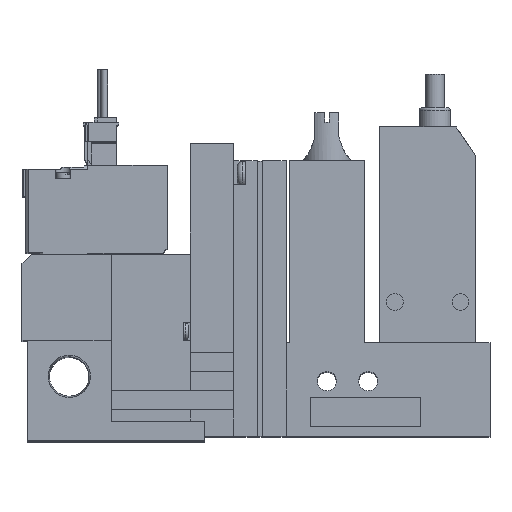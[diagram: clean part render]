
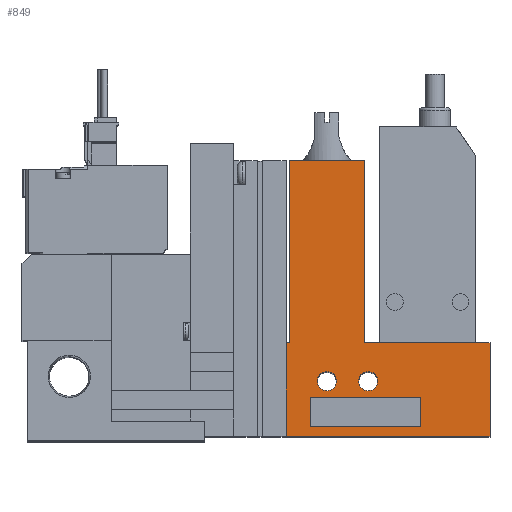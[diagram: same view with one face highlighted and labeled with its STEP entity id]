
A CAD part, top view. The second image highlights one B-rep face of the part: STEP entity #849.
In plain terms, the highlighted planar face has unit normal (0, 0, 1).
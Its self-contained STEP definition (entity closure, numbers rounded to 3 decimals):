
#849=ADVANCED_FACE('',(#1730,#1731,#1732,#1733),#1734,.T.);
#1730=FACE_BOUND('',#2973,.T.);
#1731=FACE_BOUND('',#2974,.T.);
#1732=FACE_BOUND('',#2975,.T.);
#1733=FACE_OUTER_BOUND('',#2976,.T.);
#1734=PLANE('',#2977);
#2973=EDGE_LOOP('',(#6084,#6085,#6086,#6087));
#2974=EDGE_LOOP('',(#6088));
#2975=EDGE_LOOP('',(#6089));
#2976=EDGE_LOOP('',(#6090,#6091,#6092,#6093,#6094,#6095,#6096,#6097));
#2977=AXIS2_PLACEMENT_3D('',#6098,#6099,#6100);
#6084=ORIENTED_EDGE('',*,*,#8565,.T.);
#6085=ORIENTED_EDGE('',*,*,#8566,.T.);
#6086=ORIENTED_EDGE('',*,*,#8491,.T.);
#6087=ORIENTED_EDGE('',*,*,#8477,.T.);
#6088=ORIENTED_EDGE('',*,*,#8567,.T.);
#6089=ORIENTED_EDGE('',*,*,#8568,.T.);
#6090=ORIENTED_EDGE('',*,*,#8569,.F.);
#6091=ORIENTED_EDGE('',*,*,#8570,.T.);
#6092=ORIENTED_EDGE('',*,*,#8441,.T.);
#6093=ORIENTED_EDGE('',*,*,#8515,.T.);
#6094=ORIENTED_EDGE('',*,*,#8518,.T.);
#6095=ORIENTED_EDGE('',*,*,#8571,.T.);
#6096=ORIENTED_EDGE('',*,*,#8572,.T.);
#6097=ORIENTED_EDGE('',*,*,#8573,.T.);
#6098=CARTESIAN_POINT('',(0.0,0.0,10.0));
#6099=DIRECTION('',(0.0,0.0,1.0));
#6100=DIRECTION('',(1.0,0.0,0.0));
#8441=EDGE_CURVE('',#10221,#10219,#10222,.T.);
#8477=EDGE_CURVE('',#10282,#10287,#10289,.T.);
#8491=EDGE_CURVE('',#10308,#10282,#10312,.T.);
#8515=EDGE_CURVE('',#10219,#10351,#10353,.T.);
#8518=EDGE_CURVE('',#10351,#10356,#10358,.T.);
#8565=EDGE_CURVE('',#10287,#10441,#10442,.T.);
#8566=EDGE_CURVE('',#10441,#10308,#10443,.T.);
#8567=EDGE_CURVE('',#10444,#10444,#10445,.T.);
#8568=EDGE_CURVE('',#10446,#10446,#10447,.T.);
#8569=EDGE_CURVE('',#10448,#10449,#10450,.T.);
#8570=EDGE_CURVE('',#10448,#10221,#10451,.T.);
#8571=EDGE_CURVE('',#10356,#10452,#10453,.T.);
#8572=EDGE_CURVE('',#10452,#10454,#10455,.T.);
#8573=EDGE_CURVE('',#10454,#10449,#10456,.T.);
#10219=VERTEX_POINT('',#13104);
#10221=VERTEX_POINT('',#13107);
#10222=LINE('',#13108,#13109);
#10282=VERTEX_POINT('',#13197);
#10287=VERTEX_POINT('',#13204);
#10289=LINE('',#13207,#13208);
#10308=VERTEX_POINT('',#13238);
#10312=LINE('',#13244,#13245);
#10351=VERTEX_POINT('',#13306);
#10353=LINE('',#13309,#13310);
#10356=VERTEX_POINT('',#13314);
#10358=LINE('',#13317,#13318);
#10441=VERTEX_POINT('',#13467);
#10442=LINE('',#13468,#13469);
#10443=LINE('',#13470,#13471);
#10444=VERTEX_POINT('',#13472);
#10445=CIRCLE('',#13473,2.0);
#10446=VERTEX_POINT('',#13474);
#10447=CIRCLE('',#13475,2.0);
#10448=VERTEX_POINT('',#13476);
#10449=VERTEX_POINT('',#13477);
#10450=LINE('',#13478,#13479);
#10451=LINE('',#13480,#13481);
#10452=VERTEX_POINT('',#13482);
#10453=LINE('',#13483,#13484);
#10454=VERTEX_POINT('',#13485);
#10455=LINE('',#13486,#13487);
#10456=LINE('',#13488,#13489);
#13104=CARTESIAN_POINT('',(97.6,19.5,10.0));
#13107=CARTESIAN_POINT('',(97.6,0.0,10.0));
#13108=CARTESIAN_POINT('',(97.6,0.0,10.0));
#13109=VECTOR('',#15646,1.0);
#13197=CARTESIAN_POINT('',(83.1,2.0,10.0));
#13204=CARTESIAN_POINT('',(60.1,2.0,10.0));
#13207=CARTESIAN_POINT('',(0.0,2.0,10.0));
#13208=VECTOR('',#15690,1.0);
#13238=CARTESIAN_POINT('',(83.1,8.0,10.0));
#13244=CARTESIAN_POINT('',(83.1,0.0,10.0));
#13245=VECTOR('',#15704,1.0);
#13306=CARTESIAN_POINT('',(71.45,19.5,10.0));
#13309=CARTESIAN_POINT('',(97.6,19.5,10.0));
#13310=VECTOR('',#15728,1.0);
#13314=CARTESIAN_POINT('',(71.45,57.5,10.0));
#13317=CARTESIAN_POINT('',(71.45,19.5,10.0));
#13318=VECTOR('',#15731,1.0);
#13467=CARTESIAN_POINT('',(60.1,8.0,10.0));
#13468=CARTESIAN_POINT('',(60.1,0.0,10.0));
#13469=VECTOR('',#15786,1.0);
#13470=CARTESIAN_POINT('',(0.0,8.0,10.0));
#13471=VECTOR('',#15787,1.0);
#13472=CARTESIAN_POINT('',(65.6,11.5,10.0));
#13473=AXIS2_PLACEMENT_3D('',#15788,#15789,#15790);
#13474=CARTESIAN_POINT('',(74.2,11.5,10.0));
#13475=AXIS2_PLACEMENT_3D('',#15791,#15792,#15793);
#13476=CARTESIAN_POINT('',(55.1,0.0,10.0));
#13477=CARTESIAN_POINT('',(55.1,19.5,10.0));
#13478=CARTESIAN_POINT('',(55.1,0.0,10.0));
#13479=VECTOR('',#15794,1.0);
#13480=CARTESIAN_POINT('',(18.6,0.0,10.0));
#13481=VECTOR('',#15795,1.0);
#13482=CARTESIAN_POINT('',(55.75,57.5,10.0));
#13483=CARTESIAN_POINT('',(71.45,57.5,10.0));
#13484=VECTOR('',#15796,1.0);
#13485=CARTESIAN_POINT('',(55.75,19.5,10.0));
#13486=CARTESIAN_POINT('',(55.75,57.5,10.0));
#13487=VECTOR('',#15797,1.0);
#13488=CARTESIAN_POINT('',(55.75,19.5,10.0));
#13489=VECTOR('',#15798,1.0);
#15646=DIRECTION('',(0.0,1.0,0.0));
#15690=DIRECTION('',(-1.0,0.0,0.0));
#15704=DIRECTION('',(0.0,-1.0,0.0));
#15728=DIRECTION('',(-1.0,0.0,0.0));
#15731=DIRECTION('',(0.0,1.0,0.0));
#15786=DIRECTION('',(0.0,1.0,0.0));
#15787=DIRECTION('',(1.0,0.0,0.0));
#15788=CARTESIAN_POINT('',(63.6,11.5,10.0));
#15789=DIRECTION('',(0.0,0.0,-1.0));
#15790=DIRECTION('',(1.0,0.0,0.0));
#15791=CARTESIAN_POINT('',(72.2,11.5,10.0));
#15792=DIRECTION('',(0.0,0.0,-1.0));
#15793=DIRECTION('',(1.0,0.0,0.0));
#15794=DIRECTION('',(0.0,1.0,0.0));
#15795=DIRECTION('',(1.0,0.0,0.0));
#15796=DIRECTION('',(-1.0,0.0,0.0));
#15797=DIRECTION('',(0.0,-1.0,0.0));
#15798=DIRECTION('',(-1.0,0.0,0.0));
